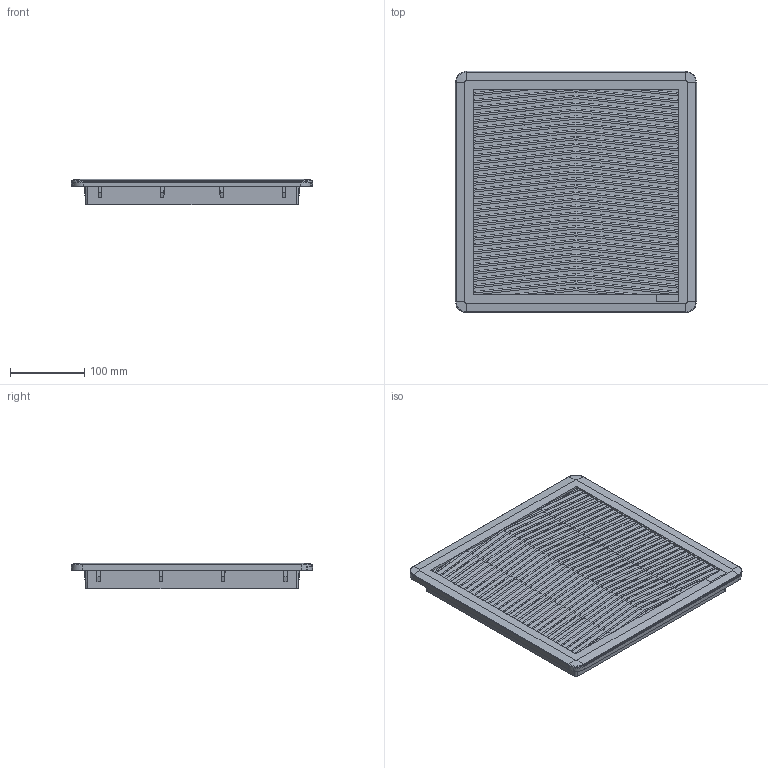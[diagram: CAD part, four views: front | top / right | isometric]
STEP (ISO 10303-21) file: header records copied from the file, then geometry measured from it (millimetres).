
FILE_DESCRIPTION(/* description */ (''),/* implementation_level */ '2;1');
FILE_NAME(/* name */ 'FF20y',/* time_stamp */ '2025-11-06T08:55:50+01:00',/* author */ (''),/* organization */ (''),/* preprocessor_version */ 'ST-DEVELOPER v16.5',/* originating_system */ 'Rhino 7.38',/* authorisation */ '');
FILE_SCHEMA (('AUTOMOTIVE_DESIGN'));
Length unit declared in the file: millimetre
Products named in the file (5): Document; FF20y; DT-00228DSI_Semplificata; DT-00230DSI_Semplificato; DT-04082DSI_mostrina semplificata
Assembly tree (4 placements, depth 3):
  Document
    FF20y
      DT-00228DSI_Semplificata
      DT-00230DSI_Semplificato
      DT-04082DSI_mostrina semplificata
Bounding box: 325 x 325.06 x 34.06 mm (x, y, z)
Volume: 2961302.9 mm3; surface area: 523015 mm2
Topology: 3 solids, 3 shells, 709 faces, 2213 edges, 1513 vertices
Faces by surface type: plane 667, cylinder 26, bspline 16
Entity records: 23101 total; most frequent: CARTESIAN_POINT 8394, ORIENTED_EDGE 4426, EDGE_CURVE 2213, B_SPLINE_CURVE_WITH_KNOTS 2169, VERTEX_POINT 1513, DIRECTION 717, EDGE_LOOP 712, ADVANCED_FACE 709
